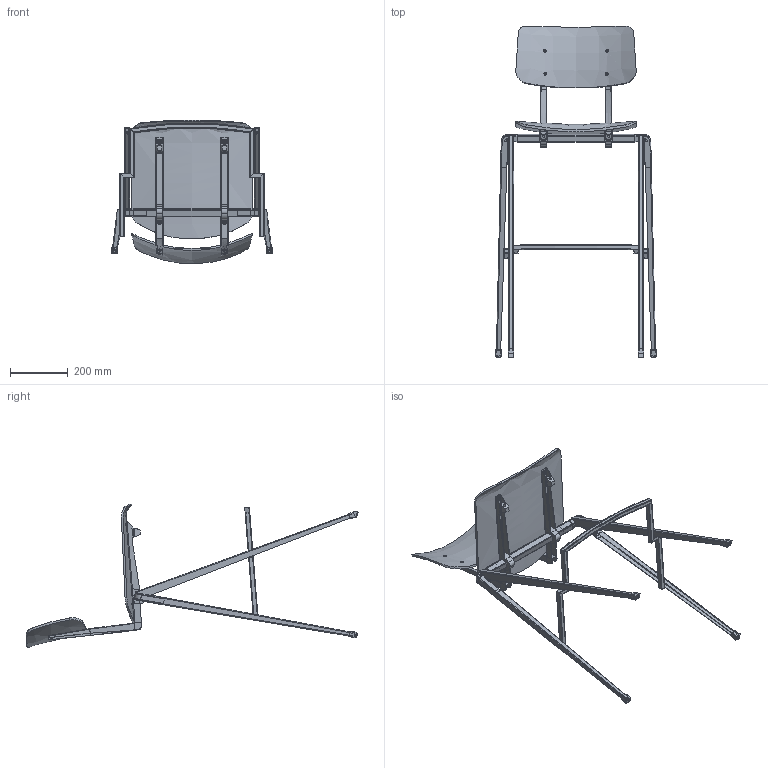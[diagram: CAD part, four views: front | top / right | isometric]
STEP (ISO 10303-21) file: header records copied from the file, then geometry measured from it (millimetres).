
FILE_DESCRIPTION (( 'STEP AP214' ), '1' );
FILE_NAME ('Galvanitas_Barstoel.STEP', '2019-11-05T14:21:53', ( '' ), ( '' ), 'SwSTEP 2.0', 'SolidWorks 2016', '' );
FILE_SCHEMA (( 'AUTOMOTIVE_DESIGN' ));
Length unit declared in the file: millimetre
Products named in the file (2): Galvanitas_Barstoel
Bounding box: 555.25 x 1145.73 x 495.62 mm (x, y, z)
Volume: 2410267.7 mm3; surface area: 1350251.4 mm2
Topology: 52 solids, 52 shells, 1525 faces, 3636 edges, 2195 vertices
Faces by surface type: plane 551, cylinder 491, bspline 243, cone 240
Entity records: 78111 total; most frequent: CARTESIAN_POINT 27227, ORIENTED_EDGE 7208, DIRECTION 6630, EDGE_CURVE 3604, AXIS2_PLACEMENT_3D 2326, VERTEX_POINT 2195, LINE 1978, VECTOR 1978
